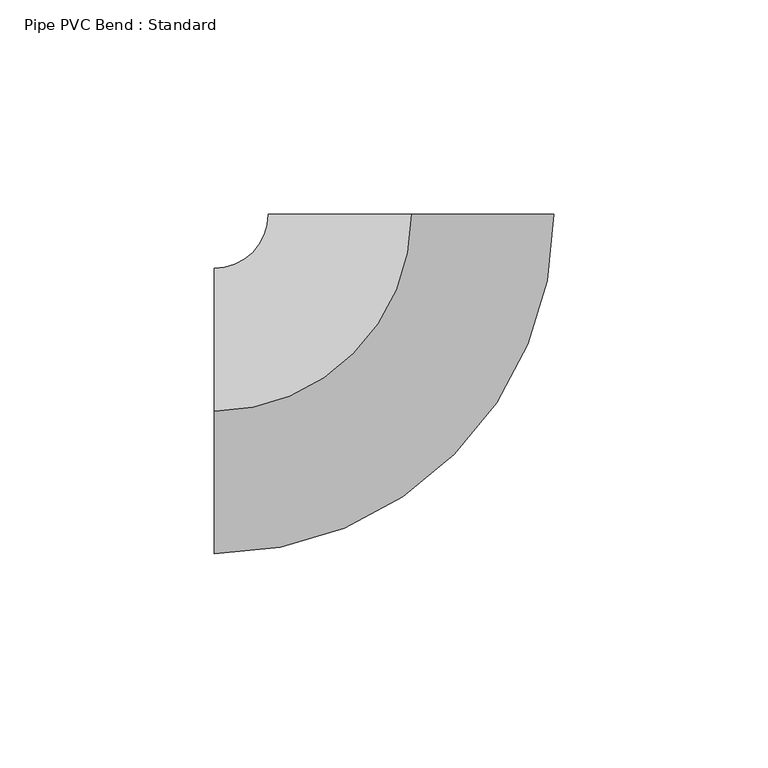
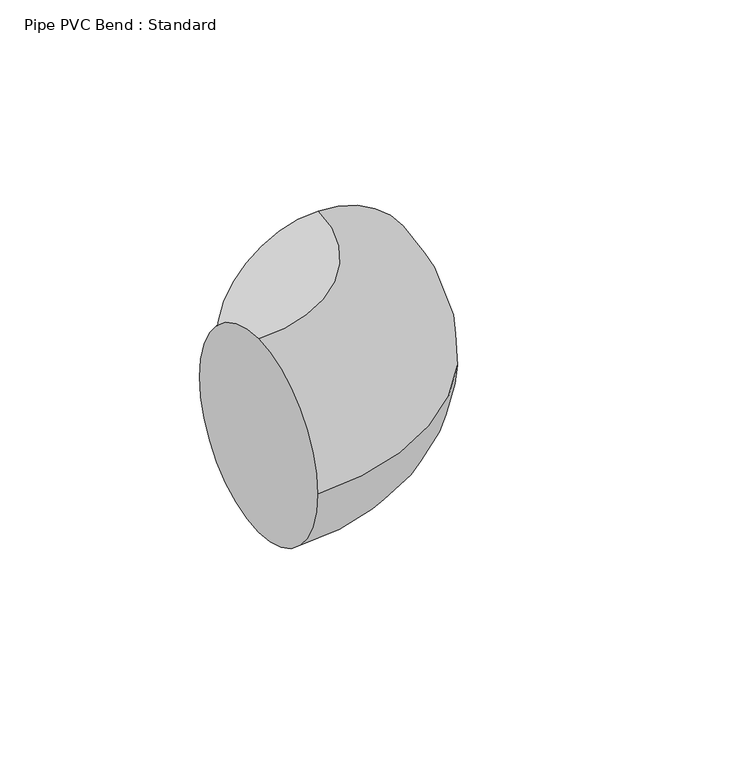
"""IFC4 building model written with IfcOpenShell, lengths in millimetres: pipe fitting geometry, Pipe PVC Bend : Standard."""

from ifc_helpers import new_model, si_unit, point, frame, origin, place, context, project, spatial, circle_curve, ellipse_curve, trimmed, source, transform, mapped, element, save
from ifc_brep_helpers import plane_surface, revolved_surface, advanced_brep


def pipe_pvc_bend_standard_a398539a(model_context):
    return source(origin(), model_context, "Body", "AdvancedBrep", [
        advanced_brep(
        [(-46.008, 0.0, 33.3375), (-46.008, 33.3375, 0.0), (-46.008, 0.0, -33.3375), (-46.008, -33.3375, 0.0), (0.0294906, 46.0079905, 33.3375), (33.3669837, 45.9866216, 0.0), (0.0294906, 46.0079905, -33.3375), (-33.3080026, 46.0293595, 0.0)],
        [
            (0, 1, circle_curve(frame((-46.008, 0.0, 0.0), z_axis=(-1.0, 0.0, 0.0), x_axis=(0.0, 1.0, 0.0)), 33.3375)),
            (1, 2, circle_curve(frame((-46.008, 0.0, 0.0), z_axis=(-1.0, 0.0, 0.0), x_axis=(0.0, 1.0, 0.0)), 33.3375)),
            (2, 3, circle_curve(frame((-46.008, 0.0, 0.0), z_axis=(-1.0, 0.0, 0.0), x_axis=(0.0, 1.0, 0.0)), 33.3375)),
            (3, 0, circle_curve(frame((-46.008, 0.0, 0.0), z_axis=(-1.0, 0.0, 0.0), x_axis=(0.0, 1.0, 0.0)), 33.3375)),
            (4, 5, circle_curve(frame((0.0294906, 46.0079905, 0.0), z_axis=(0.000640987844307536, 0.9999997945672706, 0.0), x_axis=(-0.9999997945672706, 0.000640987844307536, 0.0)), 33.3375)),
            (5, 6, circle_curve(frame((0.0294906, 46.0079905, 0.0), z_axis=(0.000640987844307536, 0.9999997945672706, 0.0), x_axis=(-0.9999997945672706, 0.000640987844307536, 0.0)), 33.3375)),
            (6, 7, circle_curve(frame((0.0294906, 46.0079905, 0.0), z_axis=(0.000640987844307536, 0.9999997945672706, 0.0), x_axis=(-0.9999997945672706, 0.000640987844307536, 0.0)), 33.3375)),
            (7, 4, circle_curve(frame((0.0294906, 46.0079905, 0.0), z_axis=(0.000640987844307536, 0.9999997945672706, 0.0), x_axis=(-0.9999997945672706, 0.000640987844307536, 0.0)), 33.3375)),
            (7, 1, circle_curve(frame((-46.008, 46.0375, 0.0), z_axis=(0.0, 0.0, -1.0), x_axis=(0.0, -1.0, 0.0)), 12.7)),
            (0, 4, circle_curve(frame((-46.008, 46.0375, 33.3375), z_axis=(0.0, 0.0, 1.0), x_axis=(0.0, -1.0, 0.0)), 46.0375)),
            (6, 2, circle_curve(frame((-46.008, 46.0375, -33.3375), z_axis=(0.0, 0.0, -1.0), x_axis=(0.0, -1.0, 0.0)), 46.0375)),
            (5, 3, circle_curve(frame((-46.008, 46.0375, 0.0), z_axis=(0.0, 0.0, -1.0), x_axis=(0.0, -1.0, 0.0)), 79.375)),
        ],
        [
            plane_surface(frame((-46.008, 0.0, 0.0), z_axis=(-1.0, 0.0, 0.0), x_axis=(0.0, 0.0, 1.0))),
            plane_surface(frame((0.0294906, 46.0079905, 0.0), z_axis=(0.0006409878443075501, 0.9999997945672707, 0.0), x_axis=(0.0, 0.0, 1.0))),
            revolved_surface(trimmed(ellipse_curve(frame((-46.008, 0.0, 0.0), z_axis=(-1.0, 0.0, 0.0), x_axis=(0.0, 1.0, 0.0)), 33.3375, 33.3375), [point((-46.008, 0.0, 33.3375))], [point((-46.008, 33.3375, 0.0))], True, "CARTESIAN"), (-46.008, 46.0375, 0.0), (0.0, 0.0, 1.0)),
            revolved_surface(trimmed(ellipse_curve(frame((-46.008, 0.0, 0.0), z_axis=(-1.0, 0.0, 0.0), x_axis=(0.0, 1.0, 0.0)), 33.3375, 33.3375), [point((-46.008, 33.3375, 0.0))], [point((-46.008, 0.0, -33.3375))], True, "CARTESIAN"), (-46.008, 46.0375, 0.0), (0.0, 0.0, 1.0)),
            revolved_surface(trimmed(ellipse_curve(frame((-46.008, 0.0, 0.0), z_axis=(-1.0, 0.0, 0.0), x_axis=(0.0, 1.0, 0.0)), 33.3375, 33.3375), [point((-46.008, 0.0, -33.3375))], [point((-46.008, -33.3375, 0.0))], True, "CARTESIAN"), (-46.008, 46.0375, 0.0), (0.0, 0.0, 1.0)),
            revolved_surface(trimmed(ellipse_curve(frame((-46.008, 0.0, 0.0), z_axis=(-1.0, 0.0, 0.0), x_axis=(0.0, 1.0, 0.0)), 33.3375, 33.3375), [point((-46.008, -33.3375, 0.0))], [point((-46.008, 0.0, 33.3375))], True, "CARTESIAN"), (-46.008, 46.0375, 0.0), (0.0, 0.0, 1.0)),
        ],
        [
            (0, [[1, 2, 3, 4]]),
            (1, [[5, 6, 7, 8]]),
            (2, [[9, -1, 10, -8]]),
            (3, [[11, -2, -9, -7]]),
            (4, [[12, -3, -11, -6]]),
            (5, [[-10, -4, -12, -5]]),
        ],
    ),
        advanced_brep(
        [(-46.008, 0.0, 33.3375), (-46.008, 33.3375, 0.0), (-46.008, 0.0, -33.3375), (-46.008, -33.3375, 0.0), (0.0294906, 46.0079905, 33.3375), (33.3669837, 45.9866216, 0.0), (0.0294906, 46.0079905, -33.3375), (-33.3080026, 46.0293595, 0.0)],
        [
            (0, 1, circle_curve(frame((-46.008, 0.0, 0.0), z_axis=(-1.0, 0.0, 0.0), x_axis=(0.0, 1.0, 0.0)), 33.3375)),
            (1, 2, circle_curve(frame((-46.008, 0.0, 0.0), z_axis=(-1.0, 0.0, 0.0), x_axis=(0.0, 1.0, 0.0)), 33.3375)),
            (2, 3, circle_curve(frame((-46.008, 0.0, 0.0), z_axis=(-1.0, 0.0, 0.0), x_axis=(0.0, 1.0, 0.0)), 33.3375)),
            (3, 0, circle_curve(frame((-46.008, 0.0, 0.0), z_axis=(-1.0, 0.0, 0.0), x_axis=(0.0, 1.0, 0.0)), 33.3375)),
            (4, 5, circle_curve(frame((0.0294906, 46.0079905, 0.0), z_axis=(0.000640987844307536, 0.9999997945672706, 0.0), x_axis=(-0.9999997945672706, 0.000640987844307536, 0.0)), 33.3375)),
            (5, 6, circle_curve(frame((0.0294906, 46.0079905, 0.0), z_axis=(0.000640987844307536, 0.9999997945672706, 0.0), x_axis=(-0.9999997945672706, 0.000640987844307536, 0.0)), 33.3375)),
            (6, 7, circle_curve(frame((0.0294906, 46.0079905, 0.0), z_axis=(0.000640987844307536, 0.9999997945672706, 0.0), x_axis=(-0.9999997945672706, 0.000640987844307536, 0.0)), 33.3375)),
            (7, 4, circle_curve(frame((0.0294906, 46.0079905, 0.0), z_axis=(0.000640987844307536, 0.9999997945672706, 0.0), x_axis=(-0.9999997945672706, 0.000640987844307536, 0.0)), 33.3375)),
            (7, 1, circle_curve(frame((-46.008, 46.0375, 0.0), z_axis=(0.0, 0.0, -1.0), x_axis=(0.0, -1.0, 0.0)), 12.7)),
            (0, 4, circle_curve(frame((-46.008, 46.0375, 33.3375), z_axis=(0.0, 0.0, 1.0), x_axis=(0.0, -1.0, 0.0)), 46.0375)),
            (6, 2, circle_curve(frame((-46.008, 46.0375, -33.3375), z_axis=(0.0, 0.0, -1.0), x_axis=(0.0, -1.0, 0.0)), 46.0375)),
            (5, 3, circle_curve(frame((-46.008, 46.0375, 0.0), z_axis=(0.0, 0.0, -1.0), x_axis=(0.0, -1.0, 0.0)), 79.375)),
        ],
        [
            plane_surface(frame((-46.008, 0.0, 0.0), z_axis=(-1.0, 0.0, 0.0), x_axis=(0.0, 0.0, 1.0))),
            plane_surface(frame((0.0294906, 46.0079905, 0.0), z_axis=(0.0006409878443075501, 0.9999997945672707, 0.0), x_axis=(0.0, 0.0, 1.0))),
            revolved_surface(trimmed(ellipse_curve(frame((-46.008, 0.0, 0.0), z_axis=(-1.0, 0.0, 0.0), x_axis=(0.0, 1.0, 0.0)), 33.3375, 33.3375), [point((-46.008, 0.0, 33.3375))], [point((-46.008, 33.3375, 0.0))], True, "CARTESIAN"), (-46.008, 46.0375, 0.0), (0.0, 0.0, 1.0)),
            revolved_surface(trimmed(ellipse_curve(frame((-46.008, 0.0, 0.0), z_axis=(-1.0, 0.0, 0.0), x_axis=(0.0, 1.0, 0.0)), 33.3375, 33.3375), [point((-46.008, 33.3375, 0.0))], [point((-46.008, 0.0, -33.3375))], True, "CARTESIAN"), (-46.008, 46.0375, 0.0), (0.0, 0.0, 1.0)),
            revolved_surface(trimmed(ellipse_curve(frame((-46.008, 0.0, 0.0), z_axis=(-1.0, 0.0, 0.0), x_axis=(0.0, 1.0, 0.0)), 33.3375, 33.3375), [point((-46.008, 0.0, -33.3375))], [point((-46.008, -33.3375, 0.0))], True, "CARTESIAN"), (-46.008, 46.0375, 0.0), (0.0, 0.0, 1.0)),
            revolved_surface(trimmed(ellipse_curve(frame((-46.008, 0.0, 0.0), z_axis=(-1.0, 0.0, 0.0), x_axis=(0.0, 1.0, 0.0)), 33.3375, 33.3375), [point((-46.008, -33.3375, 0.0))], [point((-46.008, 0.0, 33.3375))], True, "CARTESIAN"), (-46.008, 46.0375, 0.0), (0.0, 0.0, 1.0)),
        ],
        [
            (0, [[1, 2, 3, 4]]),
            (1, [[5, 6, 7, 8]]),
            (2, [[9, -1, 10, -8]]),
            (3, [[11, -2, -9, -7]]),
            (4, [[12, -3, -11, -6]]),
            (5, [[-10, -4, -12, -5]]),
        ],
    ),
    ])


if __name__ == "__main__":
    model = new_model("IFC4")
    model_context = context("Model", 3, world=origin())
    ifc_project = project(units=[si_unit("LENGTHUNIT", "METRE", prefix="MILLI")], contexts=[model_context])
    site = spatial("IfcSite", under=ifc_project)
    building = spatial("IfcBuilding", under=site)
    placement = place(None, origin())
    pipe_pvc_bend_standard_shape = pipe_pvc_bend_standard_a398539a(model_context)
    element("IfcPipeFitting", 1, ObjectType="Pipe PVC Bend : Standard", at=placement, inside=building, context=model_context, shape_type="MappedRepresentation", body=[
        mapped(pipe_pvc_bend_standard_shape, transform((0.0, 0.0, 0.0), x_axis=(1.0, 0.0, 0.0), y_axis=(0.0, 1.0, 0.0), z_axis=(0.0, 0.0, 1.0))),
    ])
    save(model, "model.ifc")
